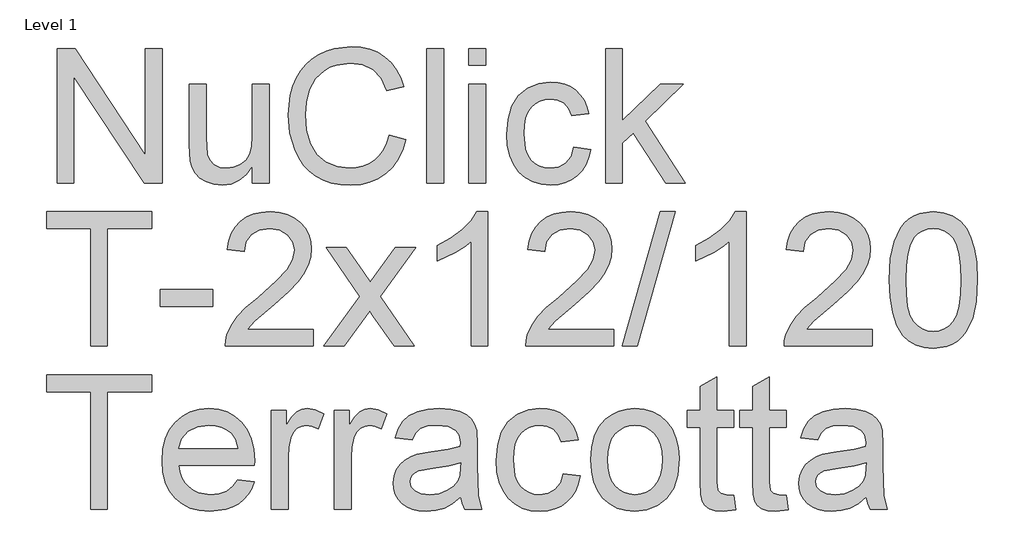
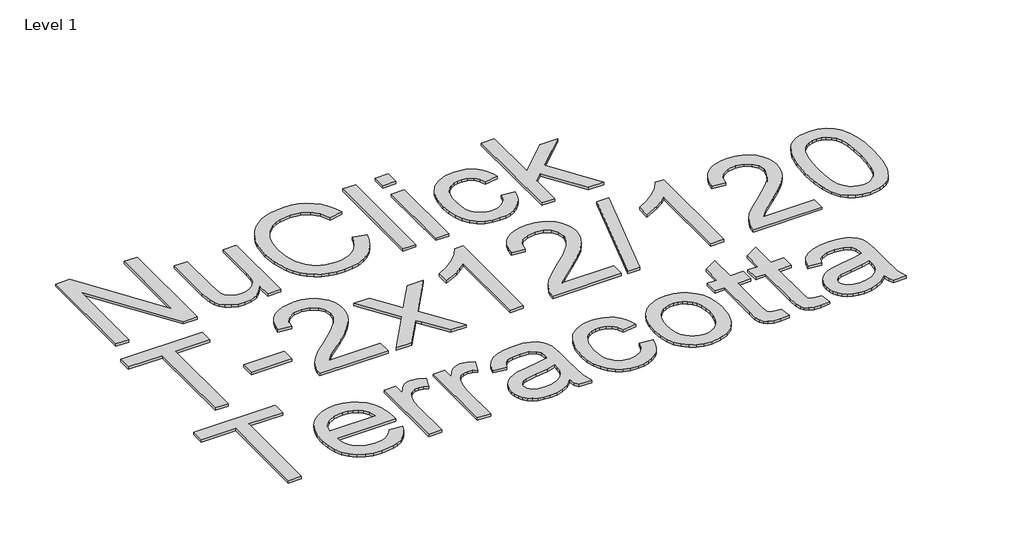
# One storey, part 8 of 13: 1 proxy.
"""IFC4 building model written with IfcOpenShell, lengths in millimetres."""

import ifcopenshell
import ifcopenshell.guid

model = None  # the IFC model being written
_history = None  # IfcOwnerHistory: only IFC2X3 demands one
_inside = {}  # id of a spatial element -> (the spatial element, [elements in it])
_under = {}  # id of a project, library or spatial element -> (it, [spatial elements below it])
_declared = {}  # id of a project -> (the project, [libraries it declares])
_typed = {}  # id of a type object -> (the type object, [elements of that type])
_made_of = {}  # id of a material, layer set ... -> (it, [elements and type objects made of it])


def new_model(schema):
    """Start an empty IFC model of exactly this schema.

    Asked for "IFC4X3", IfcOpenShell would pick the latest addendum, in which some entities
    have other attributes; the version numbers below select the first issue.
    IFC2X3 requires an IfcOwnerHistory on every rooted entity: one is made here for all.
    """
    global model, _history
    if schema == "IFC4X3":
        model = ifcopenshell.file(schema_version=(4, 3, 0, 0))
    else:
        model = ifcopenshell.file(schema=schema)
    _inside.clear()
    _under.clear()
    _declared.clear()
    _typed.clear()
    _made_of.clear()
    _history = None
    if model.schema == "IFC2X3":
        org = make("IfcOrganization", Name="unknown")
        user = make(
            "IfcPersonAndOrganization",
            ThePerson=make("IfcPerson", FamilyName="unknown"),
            TheOrganization=org,
        )
        app = make(
            "IfcApplication",
            ApplicationDeveloper=org,
            Version="unknown",
            ApplicationFullName="unknown",
            ApplicationIdentifier="unknown",
        )
        _history = make(
            "IfcOwnerHistory",
            OwningUser=user,
            OwningApplication=app,
            ChangeAction="ADDED",
            CreationDate=0,
        )
    return model


def make(cls, **values):
    """One entity of the class cls with the attributes given. An attribute that is None is left unset."""
    return model.create_entity(
        cls, **{name: value for name, value in values.items() if value is not None}
    )


def rooted(cls, **values):
    """An entity with a GlobalId (a new one), such as an element, a storey or a relation."""
    return make(cls, GlobalId=ifcopenshell.guid.new(), OwnerHistory=_history, **values)


def si_unit(unit_type, name, prefix=None):
    """IfcSIUnit, for example si_unit("LENGTHUNIT", "METRE", prefix="MILLI")."""
    return make("IfcSIUnit", UnitType=unit_type, Prefix=prefix, Name=name)


def assignment(units):
    """IfcUnitAssignment: the units of a project."""
    return None if units is None else make("IfcUnitAssignment", Units=units)


def point(xyz):
    """IfcCartesianPoint."""
    return None if xyz is None else make("IfcCartesianPoint", Coordinates=xyz)


def direction(xyz):
    """IfcDirection."""
    return None if xyz is None else make("IfcDirection", DirectionRatios=xyz)


def frame(location, z_axis=None, x_axis=None):
    """IfcAxis2Placement3D, a coordinate frame: its origin and axes. An axis left out is left unset."""
    return make(
        "IfcAxis2Placement3D",
        Location=point(location),
        Axis=direction(z_axis),
        RefDirection=direction(x_axis),
    )


def origin():
    """The frame at (0, 0, 0) with its axes left unset."""
    return frame((0.0, 0.0, 0.0))


def place(relative_to, where):
    """IfcLocalPlacement: puts the frame where relative to a parent placement (None: the world)."""
    return make(
        "IfcLocalPlacement", PlacementRelTo=relative_to, RelativePlacement=where
    )


def context(
    kind, dimensions, precision=None, world=None, true_north=None, identifier=None
):
    """IfcGeometricRepresentationContext, for example the 3D "Model" context."""
    return make(
        "IfcGeometricRepresentationContext",
        ContextIdentifier=identifier,
        ContextType=kind,
        CoordinateSpaceDimension=dimensions,
        Precision=precision,
        WorldCoordinateSystem=world,
        TrueNorth=true_north,
    )


def project(units=None, contexts=None):
    """IfcProject with its units and contexts."""
    return rooted(
        "IfcProject",
        Name="project",
        RepresentationContexts=contexts,
        UnitsInContext=assignment(units),
    )


def spatial(cls, under=None, at=None, **own):
    """A site, building, storey or space (cls), placed at a placement, below another one or the project."""
    s = rooted(cls, ObjectPlacement=at, **own)
    if under is not None:
        _under.setdefault(under.id(), (under, []))[1].append(s)
    return s


def polyline(points):
    """IfcPolyline through the points."""
    return make("IfcPolyline", Points=[point(p) for p in points])


def outline(outer, holes=None, kind="AREA"):
    """IfcArbitraryClosedProfileDef: a profile drawn as a closed curve; with holes, ...WithVoids."""
    if holes is None:
        return make("IfcArbitraryClosedProfileDef", ProfileType=kind, OuterCurve=outer)
    return make(
        "IfcArbitraryProfileDefWithVoids",
        ProfileType=kind,
        OuterCurve=outer,
        InnerCurves=holes,
    )


def extrude(swept, where, along, depth):
    """IfcExtrudedAreaSolid: the profile swept, set in the frame where, extruded along a direction by depth."""
    return make(
        "IfcExtrudedAreaSolid",
        SweptArea=swept,
        Position=where,
        ExtrudedDirection=direction(along),
        Depth=depth,
    )


def shape(context_of_items, identifier, shape_type, items):
    """IfcShapeRepresentation: the items that make up one representation, for example the "Body"."""
    return make(
        "IfcShapeRepresentation",
        ContextOfItems=context_of_items,
        RepresentationIdentifier=identifier,
        RepresentationType=shape_type,
        Items=items,
    )


def made_of(thing, what):
    """Note that an element or type object is made of a material, layer set ...; save() writes the relation."""
    if what is not None:
        _made_of.setdefault(what.id(), (what, []))[1].append(thing)
    return thing


def element(
    cls,
    number,
    at=None,
    inside=None,
    cuts=None,
    type_object=None,
    material=None,
    context=None,
    identifier="Body",
    shape_type=None,
    held_by="IfcProductDefinitionShape",
    body=None,
    shapes=None,
    **own,
):
    """One element of the class cls, such as IfcWall. Its Tag is "e" and its number.

    at: its placement. inside: the storey or other place that contains it. cuts: it is an
    opening in that element (IfcRelVoidsElement). A single representation is given by context,
    identifier, shape_type and body (its items); several are given by shapes. held_by: the class
    of the entity that holds the representations. save() writes the other relations.
    """
    e = rooted(cls, Tag="e%d" % number, ObjectPlacement=at, **own)
    if body is not None:
        shapes = [shape(context, identifier, shape_type, body)]
    if shapes is not None:
        e.Representation = make(held_by, Representations=shapes)
    if inside is not None:
        _inside.setdefault(inside.id(), (inside, []))[1].append(e)
    if cuts is not None:
        rooted(
            "IfcRelVoidsElement", RelatingBuildingElement=cuts, RelatedOpeningElement=e
        )
    if type_object is not None:
        _typed.setdefault(type_object.id(), (type_object, []))[1].append(e)
    return made_of(e, material)


def aggregate(whole, parts):
    """IfcRelAggregates: a whole, such as a stair, and the parts it consists of."""
    return rooted("IfcRelAggregates", RelatingObject=whole, RelatedObjects=parts)


def save(model, path):
    """Write the relations noted so far, then the file.

    IfcRelAggregates (storeys below a building ...), IfcRelContainedInSpatialStructure (elements
    in a storey), IfcRelDefinesByType, IfcRelAssociatesMaterial and IfcRelDeclares: one each for
    every whole, place, type object, material and project.
    """
    for whole, parts in _under.values():
        aggregate(whole, parts)
    for where, things in _inside.values():
        rooted(
            "IfcRelContainedInSpatialStructure",
            RelatedElements=things,
            RelatingStructure=where,
        )
    for kind, things in _typed.values():
        rooted("IfcRelDefinesByType", RelatedObjects=things, RelatingType=kind)
    for what, things in _made_of.values():
        rooted("IfcRelAssociatesMaterial", RelatedObjects=things, RelatingMaterial=what)
    for by, libraries in _declared.values():
        rooted("IfcRelDeclares", RelatingContext=by, RelatedDefinitions=libraries)
    model.write(path)


model = new_model("IFC4")

# Units and contexts
model_context = context("Model", 3, world=origin())
ifc_project = project(units=[si_unit("LENGTHUNIT", "METRE", prefix="MILLI")], contexts=[model_context])

# Site, building, storey
site = spatial("IfcSite", under=ifc_project)
building = spatial("IfcBuilding", under=site)
storey = spatial("IfcBuildingStorey", under=building, Name="Level 1", Elevation=4000.0)

# Proxy
placement = place(None, origin())
element("IfcBuildingElementProxy", 1, Name="Elysium 400mm Arial", ObjectType="Elysium 400mm Arial", at=placement, inside=storey, context=model_context, shape_type="SweptSolid", body=[
    extrude(outline(polyline([(38583.147161, -9059.2083157), (38583.147161, -8657.3830752), (38636.9069832, -8657.3830752), (38846.8449751, -8975.7236283), (38846.8449751, -8657.3830752), (38897.0731302, -8657.3830752), (38897.0731302, -9059.2083157), (38843.313308, -9059.2083157), (38633.3753161, -8740.7696607), (38633.3753161, -9059.2083157), (38583.147161, -9059.2083157)])), frame((0.0, 0.0, 4000.0), z_axis=(0.0, 0.0, 1.0), x_axis=(1.0, 0.0, 0.0)), (0.0, 0.0, 1.0), 10.0),
    extrude(outline(polyline([(39167.0494637, -9059.2083157), (39167.0494637, -9008.4896513), (39148.8760932, -9033.4259193), (39127.7106157, -9051.2375392), (39103.5530314, -9061.9245111), (39076.4033401, -9065.4868351), (39051.9391875, -9062.9852376), (39029.167292, -9055.4804449), (39010.0619537, -9044.1987303), (38996.5974726, -9030.3663673), (38987.5353128, -9013.5664229), (38981.6369382, -8993.3819641), (38978.6938822, -8946.6854762), (38978.6938822, -8764.1179047), (39028.9220373, -8764.1179047), (39028.9220373, -8923.0429266), (39031.9631951, -8974.2521003), (39039.2840468, -8991.3340876), (39051.8288229, -9004.3203221), (39068.7636574, -9012.5240906), (39089.2546845, -9015.2586801), (39110.922934, -9012.4627769), (39131.1932319, -9004.0750674), (39147.9073373, -8990.8681038), (39158.9070089, -8973.6144382), (39165.01385, -8949.9841514), (39167.0494637, -8917.647324), (39167.0494637, -8764.1179047), (39217.2776188, -8764.1179047), (39217.2776188, -9059.2083157), (39167.0494637, -9059.2083157)])), frame((0.0, 0.0, 4000.0), z_axis=(0.0, 0.0, 1.0), x_axis=(1.0, 0.0, 0.0)), (0.0, 0.0, 1.0), 10.0),
    extrude(outline(polyline([(39575.1532237, -8916.3719998), (39625.3813788, -8929.321446), (39615.4424336, -8960.5576931), (39602.2048131, -8987.8514714), (39585.6685174, -9011.2027811), (39565.8335465, -9030.611622), (39543.1474901, -9045.8695277), (39518.0579381, -9056.7680318), (39490.5648903, -9063.3071343), (39460.6683468, -9065.4868351), (39430.039105, -9063.8374975), (39402.4081015, -9058.8894847), (39377.7753363, -9050.6427966), (39356.1408093, -9039.0974333), (39337.2071492, -9024.4250731), (39320.6769849, -9006.7973942), (39306.5503163, -8986.2143965), (39294.8271434, -8962.6760802), (39279.0450058, -8910.8047189), (39273.7842933, -8855.2545376), (39279.7317189, -8796.6631985), (39287.1660009, -8770.3657672), (39297.5739956, -8746.0671615), (39310.7227113, -8724.1689857), (39326.3791559, -8705.0728445), (39344.5433294, -8688.7787378), (39365.2152318, -8675.2866656), (39387.6928217, -8664.7069925), (39411.2740576, -8657.1500832), (39461.7474673, -8651.1045558), (39490.4759855, -8653.0604617), (39516.819402, -8658.9281795), (39540.777717, -8668.7077092), (39562.3509303, -8682.3990508), (39581.1834228, -8699.6404537), (39596.9195751, -8720.0701671), (39609.5593873, -8743.6881912), (39619.1028594, -8770.4945259), (39568.8747043, -8782.4629535), (39551.4616232, -8745.8341695), (39527.6719209, -8720.7078293), (39497.2112917, -8706.1764904), (39459.78543, -8701.3327108), (39416.6451347, -8706.703788), (39397.9628608, -8713.4176344), (39381.2058359, -8722.8170194), (39354.313662, -8747.9801478), (39336.8147418, -8780.5009162), (39327.2130217, -8817.2645903), (39324.0124484, -8855.1564358), (39327.8016329, -8901.5586181), (39339.1691866, -8941.682281), (39358.544305, -8973.9945829), (39386.3561838, -8996.9626822), (39419.6985553, -9010.6846806), (39455.6651517, -9015.2586801), (39477.5020138, -9013.7013129), (39497.5914364, -9009.0292116), (39515.9334196, -9001.242376), (39532.5279632, -8990.3408063), (39546.9826599, -8976.3735532), (39558.9051023, -8959.3896677), (39568.2952902, -8939.3891499), (39575.1532237, -8916.3719998)])), frame((0.0, 0.0, 4000.0), z_axis=(0.0, 0.0, 1.0), x_axis=(1.0, 0.0, 0.0)), (0.0, 0.0, 1.0), 10.0),
    extrude(outline(polyline([(39688.1665726, -9059.2083157), (39688.1665726, -8657.3830752), (39738.3947277, -8657.3830752), (39738.3947277, -9059.2083157), (39688.1665726, -9059.2083157)])), frame((0.0, 0.0, 4000.0), z_axis=(0.0, 0.0, 1.0), x_axis=(1.0, 0.0, 0.0)), (0.0, 0.0, 1.0), 10.0),
    extrude(outline(polyline([(39813.7369603, -8707.6112302), (39813.7369603, -8657.3830752), (39863.9651154, -8657.3830752), (39863.9651154, -8707.6112302), (39813.7369603, -8707.6112302)])), frame((0.0, 0.0, 4000.0), z_axis=(0.0, 0.0, 1.0), x_axis=(1.0, 0.0, 0.0)), (0.0, 0.0, 1.0), 10.0),
    extrude(outline(polyline([(39813.7369603, -9059.2083157), (39813.7369603, -8764.1179047), (39863.9651154, -8764.1179047), (39863.9651154, -9059.2083157), (39813.7369603, -9059.2083157)])), frame((0.0, 0.0, 4000.0), z_axis=(0.0, 0.0, 1.0), x_axis=(1.0, 0.0, 0.0)), (0.0, 0.0, 1.0), 10.0),
    extrude(outline(polyline([(40127.6629296, -8952.4734862), (40177.8910846, -8958.7520056), (40172.428037, -8982.4528031), (40163.8870433, -9003.4251425), (40152.2681037, -9021.6690238), (40137.571218, -9037.184447), (40120.4156542, -9049.5667418), (40101.4206806, -9058.4112381), (40080.5862969, -9063.7179359), (40057.9125033, -9065.4868351), (40029.7419395, -9063.0189601), (40004.4837748, -9055.6153349), (39982.1380093, -9043.2759597), (39962.7046429, -9026.0008343), (39946.9746219, -9004.1149213), (39935.7388927, -8977.943183), (39928.9974551, -8947.4856195), (39926.7503093, -8912.7422307), (39930.5885447, -8868.0445683), (39942.1032512, -8829.3065942), (39961.4783696, -8798.0243619), (39988.897841, -8775.6939248), (40021.7006522, -8762.3030202), (40057.2257902, -8757.8393853), (40079.5102421, -8759.3722269), (40099.6671097, -8763.9707519), (40117.6963932, -8771.6349601), (40133.5980924, -8782.3648516), (40147.1024273, -8795.9151718), (40157.9396178, -8812.0406659), (40166.1096637, -8830.741334), (40171.6125652, -8852.0171761), (40121.3844102, -8858.2956955), (40112.2731994, -8836.3821913), (40098.0852171, -8820.6736301), (40079.6052782, -8811.2190628), (40057.6181977, -8808.0675404), (40040.5515388, -8809.6187761), (40025.158743, -8814.2724834), (40011.4398102, -8822.0286621), (39999.3947406, -8832.8873123), (39989.5876197, -8847.0998201), (39982.5825334, -8864.9175714), (39978.3794816, -8886.3405662), (39976.9784643, -8911.3688046), (39982.4599061, -8958.4454373), (39989.3117082, -8976.3827502), (39998.9042312, -8990.5860609), (40010.7101776, -9001.3803318), (40024.2022498, -9009.0905253), (40039.3804478, -9013.7166414), (40056.2447716, -9015.2586801), (40082.2540286, -9011.4081818), (40103.5789216, -8999.8566872), (40119.0912791, -8980.3098905), (40127.6629296, -8952.4734862)])), frame((0.0, 0.0, 4000.0), z_axis=(0.0, 0.0, 1.0), x_axis=(1.0, 0.0, 0.0)), (0.0, 0.0, 1.0), 10.0),
    extrude(outline(polyline([(40221.8407203, -9059.2083157), (40221.8407203, -8657.3830752), (40272.0688754, -8657.3830752), (40272.0688754, -8873.3052809), (40384.6898168, -8764.1179047), (40454.1459375, -8764.1179047), (40340.15157, -8874.678707), (40460.4244569, -9059.2083157), (40401.7595414, -9059.2083157), (40304.1481854, -8909.602971), (40272.0688754, -8940.7012624), (40272.0688754, -9059.2083157), (40221.8407203, -9059.2083157)])), frame((0.0, 0.0, 4000.0), z_axis=(0.0, 0.0, 1.0), x_axis=(1.0, 0.0, 0.0)), (0.0, 0.0, 1.0), 10.0),
    extrude(outline(polyline([(38683.6034712, -9547.1075871), (38683.6034712, -9195.5105016), (38551.7545641, -9195.5105016), (38551.7545641, -9145.2823465), (38865.6805333, -9145.2823465), (38865.6805333, -9195.5105016), (38733.8316262, -9195.5105016), (38733.8316262, -9547.1075871), (38683.6034712, -9547.1075871)])), frame((0.0, 0.0, 4000.0), z_axis=(0.0, 0.0, 1.0), x_axis=(1.0, 0.0, 0.0)), (0.0, 0.0, 1.0), 10.0),
    extrude(outline(polyline([(38890.7946108, -9427.8157188), (38890.7946108, -9377.5875638), (39047.7575954, -9377.5875638), (39047.7575954, -9427.8157188), (38890.7946108, -9427.8157188)])), frame((0.0, 0.0, 4000.0), z_axis=(0.0, 0.0, 1.0), x_axis=(1.0, 0.0, 0.0)), (0.0, 0.0, 1.0), 10.0),
    extrude(outline(polyline([(39349.1265259, -9496.8794321), (39349.1265259, -9547.1075871), (39085.4287117, -9547.1075871), (39086.5323577, -9529.4247259), (39090.8243143, -9512.4776287), (39103.2096748, -9485.4137765), (39121.3339945, -9459.1592648), (39147.551718, -9431.6784798), (39184.2172902, -9400.9358077), (39238.4185708, -9352.7923173), (39270.9393392, -9317.2549165), (39287.1997234, -9288.4129681), (39292.6198514, -9260.3558346), (39287.5062917, -9235.2049689), (39272.1656125, -9214.2970088), (39248.5843766, -9200.2071284), (39218.7491468, -9195.5105016), (39187.4178635, -9200.0967638), (39163.0763382, -9213.8555504), (39147.367777, -9235.7077409), (39141.9353862, -9264.5742148), (39091.7072311, -9258.2956955), (39096.0267789, -9232.3661462), (39103.8841252, -9209.7107466), (39115.27927, -9190.3294968), (39130.2122133, -9174.2223968), (39148.3395986, -9161.5611248), (39169.3180694, -9152.5173591), (39193.1476256, -9147.0910997), (39219.8282673, -9145.2823465), (39246.7480323, -9147.2934348), (39270.7063473, -9153.3266995), (39291.7032121, -9163.3821407), (39309.7386269, -9177.4597584), (39324.2239805, -9194.5172202), (39334.5706616, -9213.5121939), (39340.7786703, -9234.4446794), (39342.8480065, -9257.3146768), (39340.6161891, -9281.3373711), (39333.9207368, -9304.9431324), (39322.0381483, -9328.953564), (39304.2449225, -9354.1902689), (39275.8812207, -9384.3198043), (39232.2872042, -9423.0087274), (39174.5052055, -9471.3238961), (39151.8436746, -9496.8794321), (39349.1265259, -9496.8794321)])), frame((0.0, 0.0, 4000.0), z_axis=(0.0, 0.0, 1.0), x_axis=(1.0, 0.0, 0.0)), (0.0, 0.0, 1.0), 10.0),
    extrude(outline(polyline([(39380.5191228, -9547.1075871), (39487.8425635, -9398.7775667), (39386.7976422, -9252.0171761), (39447.2283913, -9252.0171761), (39495.9850184, -9322.6505191), (39518.7446511, -9356.0051534), (39538.4631261, -9328.7328348), (39593.9887819, -9252.0171761), (39654.419531, -9252.0171761), (39548.2733126, -9398.7775667), (39650.4954563, -9547.1075871), (39590.0647073, -9547.1075871), (39528.5548377, -9457.9329915), (39517.2731232, -9441.6480818), (39440.9498719, -9547.1075871), (39380.5191228, -9547.1075871)])), frame((0.0, 0.0, 4000.0), z_axis=(0.0, 0.0, 1.0), x_axis=(1.0, 0.0, 0.0)), (0.0, 0.0, 1.0), 10.0),
    extrude(outline(polyline([(39870.2436348, -9547.1075871), (39820.0154797, -9547.1075871), (39820.0154797, -9233.9664328), (39799.046206, -9250.9257928), (39772.436075, -9267.8606273), (39719.5591696, -9293.2199595), (39719.5591696, -9245.7386567), (39759.0083822, -9224.2788736), (39793.1846195, -9198.7478632), (39820.1258443, -9171.5981719), (39837.8700192, -9145.2823465), (39870.2436348, -9145.2823465), (39870.2436348, -9547.1075871)])), frame((0.0, 0.0, 4000.0), z_axis=(0.0, 0.0, 1.0), x_axis=(1.0, 0.0, 0.0)), (0.0, 0.0, 1.0), 10.0),
    extrude(outline(polyline([(40246.9547979, -9496.8794321), (40246.9547979, -9547.1075871), (39983.2569837, -9547.1075871), (39984.3606297, -9529.4247259), (39988.6525863, -9512.4776287), (40001.0379468, -9485.4137765), (40019.1622664, -9459.1592648), (40045.37999, -9431.6784798), (40082.0455621, -9400.9358077), (40136.2468428, -9352.7923173), (40168.7676111, -9317.2549165), (40185.0279953, -9288.4129681), (40190.4481234, -9260.3558346), (40185.3345637, -9235.2049689), (40169.9938845, -9214.2970088), (40146.4126486, -9200.2071284), (40116.5774188, -9195.5105016), (40085.2461355, -9200.0967638), (40060.9046102, -9213.8555504), (40045.196049, -9235.7077409), (40039.7636582, -9264.5742148), (39989.5355031, -9258.2956955), (39993.8550509, -9232.3661462), (40001.7123971, -9209.7107466), (40013.1075419, -9190.3294968), (40028.0404853, -9174.2223968), (40046.1678706, -9161.5611248), (40067.1463413, -9152.5173591), (40090.9758976, -9147.0910997), (40117.6565393, -9145.2823465), (40144.5763043, -9147.2934348), (40168.5346192, -9153.3266995), (40189.5314841, -9163.3821407), (40207.5668989, -9177.4597584), (40222.0522525, -9194.5172202), (40232.3989336, -9213.5121939), (40238.6069422, -9234.4446794), (40240.6762785, -9257.3146768), (40238.444461, -9281.3373711), (40231.7490087, -9304.9431324), (40219.8664203, -9328.953564), (40202.0731944, -9354.1902689), (40173.7094926, -9384.3198043), (40130.1154762, -9423.0087274), (40072.3334775, -9471.3238961), (40049.6719466, -9496.8794321), (40246.9547979, -9496.8794321)])), frame((0.0, 0.0, 4000.0), z_axis=(0.0, 0.0, 1.0), x_axis=(1.0, 0.0, 0.0)), (0.0, 0.0, 1.0), 10.0),
    extrude(outline(polyline([(40272.0688754, -9547.1075871), (40385.0822243, -9145.2823465), (40430.4052861, -9145.2823465), (40317.3919372, -9547.1075871), (40272.0688754, -9547.1075871)])), frame((0.0, 0.0, 4000.0), z_axis=(0.0, 0.0, 1.0), x_axis=(1.0, 0.0, 0.0)), (0.0, 0.0, 1.0), 10.0),
    extrude(outline(polyline([(40642.5015191, -9547.1075871), (40592.273364, -9547.1075871), (40592.273364, -9233.9664328), (40571.3040903, -9250.9257928), (40544.6939593, -9267.8606273), (40491.8170538, -9293.2199595), (40491.8170538, -9245.7386567), (40531.2662665, -9224.2788736), (40565.4425038, -9198.7478632), (40592.3837286, -9171.5981719), (40610.1279035, -9145.2823465), (40642.5015191, -9145.2823465), (40642.5015191, -9547.1075871)])), frame((0.0, 0.0, 4000.0), z_axis=(0.0, 0.0, 1.0), x_axis=(1.0, 0.0, 0.0)), (0.0, 0.0, 1.0), 10.0),
    extrude(outline(polyline([(41019.2126821, -9496.8794321), (41019.2126821, -9547.1075871), (40755.514868, -9547.1075871), (40756.618514, -9529.4247259), (40760.9104706, -9512.4776287), (40773.2958311, -9485.4137765), (40791.4201507, -9459.1592648), (40817.6378742, -9431.6784798), (40854.3034464, -9400.9358077), (40908.504727, -9352.7923173), (40941.0254954, -9317.2549165), (40957.2858796, -9288.4129681), (40962.7060077, -9260.3558346), (40957.5924479, -9235.2049689), (40942.2517687, -9214.2970088), (40918.6705328, -9200.2071284), (40888.835303, -9195.5105016), (40857.5040198, -9200.0967638), (40833.1624944, -9213.8555504), (40817.4539332, -9235.7077409), (40812.0215424, -9264.5742148), (40761.7933874, -9258.2956955), (40766.1129351, -9232.3661462), (40773.9702814, -9209.7107466), (40785.3654262, -9190.3294968), (40800.2983695, -9174.2223968), (40818.4257548, -9161.5611248), (40839.4042256, -9152.5173591), (40863.2337819, -9147.0910997), (40889.9144236, -9145.2823465), (40916.8341886, -9147.2934348), (40940.7925035, -9153.3266995), (40961.7893684, -9163.3821407), (40979.8247832, -9177.4597584), (40994.3101367, -9194.5172202), (41004.6568179, -9213.5121939), (41010.8648265, -9234.4446794), (41012.9341627, -9257.3146768), (41010.7023453, -9281.3373711), (41004.006893, -9304.9431324), (40992.1243046, -9328.953564), (40974.3310787, -9354.1902689), (40945.9673769, -9384.3198043), (40902.3733605, -9423.0087274), (40844.5913618, -9471.3238961), (40821.9298308, -9496.8794321), (41019.2126821, -9496.8794321)])), frame((0.0, 0.0, 4000.0), z_axis=(0.0, 0.0, 1.0), x_axis=(1.0, 0.0, 0.0)), (0.0, 0.0, 1.0), 10.0),
    extrude(outline(polyline([(41069.4408372, -9349.4323284), (41073.1319199, -9285.1142929), (41084.2051679, -9233.81928), (41102.5502168, -9194.7624749), (41114.4082797, -9179.5290946), (41128.0567018, -9167.1590625), (41143.5414681, -9157.5879993), (41160.9085639, -9150.7515255), (41201.2897443, -9145.2823465), (41232.2408828, -9148.5197081), (41259.9546598, -9158.2317928), (41283.1312255, -9174.0384558), (41300.4707302, -9195.5595525), (41313.5673292, -9222.6111419), (41324.0151779, -9255.009283), (41330.857783, -9296.1507528), (41333.1386513, -9349.4323284), (41329.4843569, -9413.3824819), (41318.5214734, -9464.5548674), (41300.2867892, -9503.6484608), (41288.4563173, -9518.9278263), (41274.8170924, -9531.3622377), (41259.313932, -9540.9976803), (41241.8916538, -9547.8801393), (41201.2897443, -9553.3861065), (41173.6250182, -9550.9948735), (41149.0995519, -9543.8211746), (41127.7133452, -9531.8650098), (41109.4663983, -9515.126379), (41091.9552153, -9484.8680849), (41079.4472275, -9447.1663118), (41071.9424348, -9402.0210596), (41069.4408372, -9349.4323284)]), holes=[polyline([(41119.6689923, -9349.3342265), (41121.1405203, -9392.9987537), (41125.5551042, -9428.3430164), (41132.9127441, -9455.3670146), (41143.21344, -9474.0707484), (41155.6723769, -9486.7963997), (41169.5047399, -9495.8861507), (41184.710529, -9501.3400012), (41201.2897443, -9503.1579514), (41217.8689595, -9501.3338699), (41233.0747487, -9495.8616252), (41246.9071117, -9486.7412174), (41259.3660486, -9473.9726465), (41269.6667444, -9455.2382559), (41277.0243843, -9428.220389), (41281.4389683, -9392.9190459), (41282.9104963, -9349.3342265), (41281.4880192, -9306.825462), (41277.2205881, -9272.103533), (41270.1082028, -9245.1684396), (41260.1508635, -9226.0201817), (41247.9003931, -9212.6721967), (41233.9086145, -9203.1379216), (41218.1755279, -9197.4173566), (41200.7011331, -9195.5105016), (41184.207757, -9197.1904961), (41169.2594852, -9202.2304794), (41155.8563179, -9210.6304516), (41143.9982549, -9222.3904127), (41133.3542025, -9243.2370591), (41125.7513079, -9271.3432435), (41121.1895712, -9306.708966), (41119.6689923, -9349.3342265)])]), frame((0.0, 0.0, 4000.0), z_axis=(0.0, 0.0, 1.0), x_axis=(1.0, 0.0, 0.0)), (0.0, 0.0, 1.0), 10.0),
    extrude(outline(polyline([(38683.6034712, -10035.0068585), (38683.6034712, -9683.409773), (38551.7545641, -9683.409773), (38551.7545641, -9633.1816179), (38865.6805333, -9633.1816179), (38865.6805333, -9683.409773), (38733.8316262, -9683.409773), (38733.8316262, -10035.0068585), (38683.6034712, -10035.0068585)])), frame((0.0, 0.0, 4000.0), z_axis=(0.0, 0.0, 1.0), x_axis=(1.0, 0.0, 0.0)), (0.0, 0.0, 1.0), 10.0),
    extrude(outline(polyline([(39122.5112169, -9947.1075871), (39171.7583533, -9953.3861065), (39164.2075753, -9973.1107128), (39154.0141784, -9990.4931371), (39141.1781624, -10005.5333793), (39125.6995275, -10018.2314395), (39107.7376891, -10028.3175376), (39087.4520627, -10035.5218933), (39039.9094462, -10041.2853779), (39008.7437099, -10038.7991087), (38980.9747506, -10031.3403013), (38956.6025684, -10018.9089555), (38935.6271633, -10001.5050715), (38918.7597738, -9979.6130271), (38906.7116385, -9953.7172003), (38899.4827573, -9923.8175912), (38897.0731302, -9889.9141996), (38899.5072828, -9854.8611768), (38906.8097404, -9823.9652206), (38918.980503, -9797.2263309), (38936.0195708, -9774.6445078), (38956.9397936, -9756.7041292), (38980.7540214, -9743.889573), (39007.4622542, -9736.2008393), (39037.0644921, -9733.6379281), (39065.7133025, -9736.1947079), (39091.621392, -9743.8650475), (39114.7887606, -9756.6489469), (39135.2154084, -9774.5464059), (39151.8896599, -9797.0791781), (39163.7998395, -9823.7690169), (39170.9459472, -9854.6159222), (39173.3279831, -9889.619894), (39173.0336775, -9903.1579514), (38947.3012853, -9903.1579514), (38950.2106187, -9923.2013888), (38955.9955631, -9940.7554913), (38964.6561184, -9955.820259), (38976.1922846, -9968.3956919), (38989.9663997, -9978.3101117), (39005.3408014, -9985.3918401), (39040.8904649, -9991.0572228), (39067.6232232, -9988.4329979), (39090.1376013, -9980.5603232), (39108.4335992, -9966.9486894), (39122.5112169, -9947.1075871)]), holes=[polyline([(38947.3012853, -9852.9297964), (39123.0998281, -9852.9297964), (39116.3062739, -9826.3932418), (39102.9889457, -9807.4105308), (39089.2914727, -9797.109835), (39073.7055388, -9789.7521951), (39056.2311441, -9785.3376111), (39036.8682884, -9783.8660831), (39003.0108821, -9788.5627099), (38975.0150623, -9802.6525904), (38955.5541047, -9824.6151455), (38947.3012853, -9852.9297964)])]), frame((0.0, 0.0, 4000.0), z_axis=(0.0, 0.0, 1.0), x_axis=(1.0, 0.0, 0.0)), (0.0, 0.0, 1.0), 10.0),
    extrude(outline(polyline([(39223.5561382, -10035.0068585), (39223.5561382, -9739.9164474), (39267.5057739, -9739.9164474), (39267.5057739, -9783.5717775), (39283.7416326, -9758.2614963), (39298.7021671, -9743.3500127), (39313.7117525, -9736.0659492), (39330.094764, -9733.6379281), (39355.1107397, -9737.5129517), (39380.5191228, -9749.1380228), (39363.7437038, -9794.166779), (39346.0853681, -9786.4412571), (39328.4270323, -9783.8660831), (39313.4297096, -9786.3431552), (39300.0265423, -9793.7743715), (39289.1985489, -9805.5956463), (39281.9267481, -9821.2428938), (39275.819907, -9849.3000273), (39273.7842933, -9879.9078093), (39273.7842933, -10035.0068585), (39223.5561382, -10035.0068585)])), frame((0.0, 0.0, 4000.0), z_axis=(0.0, 0.0, 1.0), x_axis=(1.0, 0.0, 0.0)), (0.0, 0.0, 1.0), 10.0),
    extrude(outline(polyline([(39411.9117197, -10035.0068585), (39411.9117197, -9739.9164474), (39455.8613554, -9739.9164474), (39455.8613554, -9783.5717775), (39472.0972141, -9758.2614963), (39487.0577486, -9743.3500127), (39502.067334, -9736.0659492), (39518.4503455, -9733.6379281), (39543.4663212, -9737.5129517), (39568.8747043, -9749.1380228), (39552.0992854, -9794.166779), (39534.4409496, -9786.4412571), (39516.7826138, -9783.8660831), (39501.7852912, -9786.3431552), (39488.3821238, -9793.7743715), (39477.5541304, -9805.5956463), (39470.2823296, -9821.2428938), (39464.1754885, -9849.3000273), (39462.1398748, -9879.9078093), (39462.1398748, -10035.0068585), (39411.9117197, -10035.0068585)])), frame((0.0, 0.0, 4000.0), z_axis=(0.0, 0.0, 1.0), x_axis=(1.0, 0.0, 0.0)), (0.0, 0.0, 1.0), 10.0),
    extrude(outline(polyline([(39788.6228828, -9997.3357422), (39764.624714, -10017.9126085), (39739.9153066, -10031.3770895), (39713.930575, -10038.8083058), (39686.1064335, -10041.2853779), (39663.7422738, -10039.7954558), (39644.1310978, -10035.3256896), (39627.2729054, -10027.8760792), (39613.1676966, -10017.4466246), (39602.0300692, -10004.6995135), (39594.074621, -9990.2969334), (39589.3013521, -9974.2388843), (39587.7102625, -9956.5253662), (39590.1137582, -9935.7032453), (39597.3242453, -9916.7941107), (39608.4465443, -9900.6073029), (39622.5854756, -9887.9521623), (39639.2014791, -9878.3872304), (39657.7549944, -9871.4710489), (39701.2141207, -9863.9172053), (39752.5704473, -9855.9709542), (39788.3285772, -9846.651277), (39788.6228828, -9835.4676643), (39785.164792, -9813.0513881), (39774.7905198, -9798.3851592), (39751.5894286, -9787.4958522), (39719.264864, -9783.8660831), (39689.343795, -9786.2818416), (39668.4480977, -9793.5291169), (39654.1988018, -9806.9322842), (39644.216937, -9827.8157188), (39593.9887819, -9821.5371994), (39602.7075852, -9794.0686771), (39615.7183451, -9772.4862668), (39634.2350722, -9755.9806279), (39659.471777, -9743.7424202), (39690.3370764, -9736.1640511), (39725.7395871, -9733.6379281), (39759.6950952, -9735.8697455), (39786.6117946, -9742.5651978), (39806.906618, -9752.6329017), (39820.9964984, -9764.9814741), (39830.340701, -9780.2485769), (39836.3984912, -9799.0718723), (39838.8510379, -9843.021508), (39838.8510379, -9905.5123962), (39841.4016864, -9992.7740055), (39851.4080766, -10035.0068585), (39801.1799216, -10035.0068585), (39793.1355686, -10017.5447265), (39788.6228828, -9997.3357422)]), holes=[polyline([(39788.6228828, -9896.8794321), (39754.8758411, -9905.2426161), (39707.590742, -9912.2814249), (39664.3768703, -9920.4238797), (39653.131944, -9925.9911606), (39644.8055481, -9933.6676316), (39639.6552002, -9942.8646815), (39637.9384176, -9952.9936991), (39641.6785512, -9967.9297081), (39652.898952, -9980.1679158), (39671.3543655, -9988.3348961), (39696.7995368, -9991.0572228), (39723.7775498, -9988.0528532), (39747.6163031, -9979.0397443), (39766.9423705, -9965.7592043), (39780.3823261, -9949.9525412), (39786.3420144, -9933.6676316), (39788.3285772, -9911.1042025), (39788.6228828, -9896.8794321)])]), frame((0.0, 0.0, 4000.0), z_axis=(0.0, 0.0, 1.0), x_axis=(1.0, 0.0, 0.0)), (0.0, 0.0, 1.0), 10.0),
    extrude(outline(polyline([(40096.2703326, -9928.272029), (40146.4984877, -9934.5505484), (40141.0354401, -9958.2513459), (40132.4944464, -9979.2236853), (40120.8755067, -9997.4675666), (40106.178621, -10012.9829897), (40089.0230573, -10025.3652846), (40070.0280836, -10034.2097809), (40049.1937, -10039.5164786), (40026.5199063, -10041.2853779), (39998.3493426, -10038.8175028), (39973.0911779, -10031.4138777), (39950.7454124, -10019.0745024), (39931.312046, -10001.7993771), (39915.582025, -9979.9134641), (39904.3462957, -9953.7417258), (39897.6048582, -9923.2841623), (39895.3577123, -9888.5407735), (39899.1959478, -9843.8431111), (39910.7106543, -9805.105137), (39930.0857727, -9773.8229047), (39957.505244, -9751.4924676), (39990.3080553, -9738.1015629), (40025.8331933, -9733.6379281), (40048.1176451, -9735.1707697), (40068.2745128, -9739.7692946), (40086.3037962, -9747.4335029), (40102.2054955, -9758.1633944), (40115.7098304, -9771.7137146), (40126.5470208, -9787.8392087), (40134.7170668, -9806.5398768), (40140.2199683, -9827.8157188), (40089.9918132, -9834.0942382), (40080.8806025, -9812.180734), (40066.6926202, -9796.4721728), (40048.2126813, -9787.0176056), (40026.2256007, -9783.8660831), (40009.1589419, -9785.4173189), (39993.766146, -9790.0710261), (39980.0472133, -9797.8272049), (39968.0021436, -9808.6858551), (39958.1950228, -9822.8983628), (39951.1899365, -9840.7161141), (39946.9868847, -9862.139109), (39945.5858674, -9887.1673474), (39951.0673091, -9934.24398), (39957.9191113, -9952.181293), (39967.5116343, -9966.3846037), (39979.3175807, -9977.1788746), (39992.8096529, -9984.889068), (40007.9878508, -9989.5151841), (40024.8521746, -9991.0572228), (40050.8614317, -9987.2067246), (40072.1863247, -9975.65523), (40087.6986821, -9956.1084333), (40096.2703326, -9928.272029)])), frame((0.0, 0.0, 4000.0), z_axis=(0.0, 0.0, 1.0), x_axis=(1.0, 0.0, 0.0)), (0.0, 0.0, 1.0), 10.0),
    extrude(outline(polyline([(40177.8910846, -9887.461653), (40180.60728, -9849.244845), (40188.7558662, -9816.3132751), (40202.3368432, -9788.6669432), (40221.350211, -9766.3058492), (40240.4923375, -9752.0136337), (40261.6210267, -9741.8049084), (40284.7362788, -9735.6796731), (40309.8380936, -9733.6379281), (40337.5488048, -9736.1241972), (40362.6046344, -9743.5830047), (40385.0055822, -9756.0143504), (40404.7516483, -9773.4182345), (40420.8679454, -9795.2060456), (40432.3795862, -9820.7891727), (40439.2865706, -9850.1676157), (40441.5888988, -9883.3413746), (40437.5176714, -9934.0845645), (40425.3039891, -9972.712174), (40405.3034713, -10001.6399615), (40377.8717372, -10023.2836856), (40345.2896552, -10036.7849548), (40309.8380936, -10041.2853779), (40281.7227121, -10038.8083058), (40256.4338906, -10031.3770895), (40233.9716291, -10018.991729), (40214.3359276, -10001.6522243), (40198.3913088, -9979.652881), (40187.0022954, -9953.2880046), (40180.1688873, -9922.5575953), (40177.8910846, -9887.461653)]), holes=[polyline([(40228.1192397, -9887.3635511), (40229.5723736, -9911.7265362), (40233.9317752, -9932.821503), (40241.1974446, -9950.6484513), (40251.3693818, -9965.2073813), (40263.7424796, -9976.516687), (40277.6116308, -9984.5947624), (40292.9768355, -9989.4416077), (40309.8380936, -9991.0572228), (40326.6135125, -9989.4324107), (40341.9174035, -9984.5579742), (40355.7497666, -9976.4339135), (40368.1106016, -9965.0602285), (40378.2825388, -9950.3572114), (40385.5482082, -9932.2451545), (40389.9076098, -9910.7240578), (40391.3607437, -9885.7939213), (40389.8984128, -9862.2034883), (40385.51142, -9841.6603446), (40378.1997653, -9824.16449), (40367.9634488, -9809.7159247), (40355.5566285, -9798.406619), (40341.7334625, -9790.3285435), (40326.4939509, -9785.4816982), (40309.8380936, -9783.8660831), (40292.9768355, -9785.4755669), (40277.6116308, -9790.3040181), (40263.7424796, -9798.3514367), (40251.3693818, -9809.6178228), (40241.1974446, -9824.1338332), (40233.9317752, -9841.9301247), (40229.5723736, -9863.0066974), (40228.1192397, -9887.3635511)])]), frame((0.0, 0.0, 4000.0), z_axis=(0.0, 0.0, 1.0), x_axis=(1.0, 0.0, 0.0)), (0.0, 0.0, 1.0), 10.0),
    extrude(outline(polyline([(40604.8304028, -9993.117362), (40611.1089221, -10036.4783865), (40573.5359077, -10041.2853779), (40549.4273743, -10039.2007133), (40531.4502075, -10032.9467193), (40518.7460159, -10023.3082111), (40510.4564083, -10011.0700034), (40505.8946715, -9990.0516787), (40504.3740926, -9954.0728196), (40504.3740926, -9790.1446025), (40466.7029763, -9790.1446025), (40466.7029763, -9739.9164474), (40504.3740926, -9739.9164474), (40504.3740926, -9668.2039839), (40554.6022477, -9638.6753224), (40554.6022477, -9739.9164474), (40604.8304028, -9739.9164474), (40604.8304028, -9790.1446025), (40554.6022477, -9790.1446025), (40554.6022477, -9952.6012916), (40557.2509981, -9978.5001841), (40565.8349113, -9987.6727085), (40582.9536868, -9991.0572228), (40604.8304028, -9993.117362)])), frame((0.0, 0.0, 4000.0), z_axis=(0.0, 0.0, 1.0), x_axis=(1.0, 0.0, 0.0)), (0.0, 0.0, 1.0), 10.0),
    extrude(outline(polyline([(40761.7933874, -9993.117362), (40768.0719068, -10036.4783865), (40730.4988923, -10041.2853779), (40706.3903589, -10039.2007133), (40688.4131921, -10032.9467193), (40675.7090005, -10023.3082111), (40667.4193929, -10011.0700034), (40662.8576561, -9990.0516787), (40661.3370772, -9954.0728196), (40661.3370772, -9790.1446025), (40623.6659609, -9790.1446025), (40623.6659609, -9739.9164474), (40661.3370772, -9739.9164474), (40661.3370772, -9668.2039839), (40711.5652323, -9638.6753224), (40711.5652323, -9739.9164474), (40761.7933874, -9739.9164474), (40761.7933874, -9790.1446025), (40711.5652323, -9790.1446025), (40711.5652323, -9952.6012916), (40714.2139827, -9978.5001841), (40722.7978959, -9987.6727085), (40739.9166714, -9991.0572228), (40761.7933874, -9993.117362)])), frame((0.0, 0.0, 4000.0), z_axis=(0.0, 0.0, 1.0), x_axis=(1.0, 0.0, 0.0)), (0.0, 0.0, 1.0), 10.0),
    extrude(outline(polyline([(41000.377124, -9997.3357422), (40976.3789552, -10017.9126085), (40951.6695478, -10031.3770895), (40925.6848162, -10038.8083058), (40897.8606747, -10041.2853779), (40875.496515, -10039.7954558), (40855.885339, -10035.3256896), (40839.0271466, -10027.8760792), (40824.9219377, -10017.4466246), (40813.7843103, -10004.6995135), (40805.8288622, -9990.2969334), (40801.0555933, -9974.2388843), (40799.4645037, -9956.5253662), (40801.8679994, -9935.7032453), (40809.0784865, -9916.7941107), (40820.2007855, -9900.6073029), (40834.3397168, -9887.9521623), (40850.9557203, -9878.3872304), (40869.5092356, -9871.4710489), (40912.9683619, -9863.9172053), (40964.3246884, -9855.9709542), (41000.0828184, -9846.651277), (41000.377124, -9835.4676643), (40996.9190332, -9813.0513881), (40986.544761, -9798.3851592), (40963.3436698, -9787.4958522), (40931.0191052, -9783.8660831), (40901.0980362, -9786.2818416), (40880.2023389, -9793.5291169), (40865.9530429, -9806.9322842), (40855.9711781, -9827.8157188), (40805.7430231, -9821.5371994), (40814.4618263, -9794.0686771), (40827.4725862, -9772.4862668), (40845.9893133, -9755.9806279), (40871.2260182, -9743.7424202), (40902.0913176, -9736.1640511), (40937.4938283, -9733.6379281), (40971.4493364, -9735.8697455), (40998.3660357, -9742.5651978), (41018.6608591, -9752.6329017), (41032.7507396, -9764.9814741), (41042.0949422, -9780.2485769), (41048.1527324, -9799.0718723), (41050.6052791, -9843.021508), (41050.6052791, -9905.5123962), (41053.1559276, -9992.7740055), (41063.1623178, -10035.0068585), (41012.9341627, -10035.0068585), (41004.8898098, -10017.5447265), (41000.377124, -9997.3357422)]), holes=[polyline([(41000.377124, -9896.8794321), (40966.6300823, -9905.2426161), (40919.3449832, -9912.2814249), (40876.1311115, -9920.4238797), (40864.8861852, -9925.9911606), (40856.5597893, -9933.6676316), (40851.4094414, -9942.8646815), (40849.6926588, -9952.9936991), (40853.4327924, -9967.9297081), (40864.6531932, -9980.1679158), (40883.1086066, -9988.3348961), (40908.553778, -9991.0572228), (40935.531791, -9988.0528532), (40959.3705442, -9979.0397443), (40978.6966117, -9965.7592043), (40992.1365673, -9949.9525412), (40998.0962556, -9933.6676316), (41000.0828184, -9911.1042025), (41000.377124, -9896.8794321)])]), frame((0.0, 0.0, 4000.0), z_axis=(0.0, 0.0, 1.0), x_axis=(1.0, 0.0, 0.0)), (0.0, 0.0, 1.0), 10.0),
])

save(model, "model.ifc")
